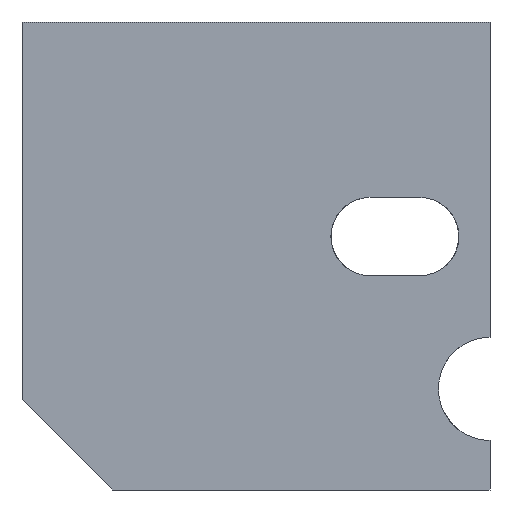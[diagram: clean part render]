
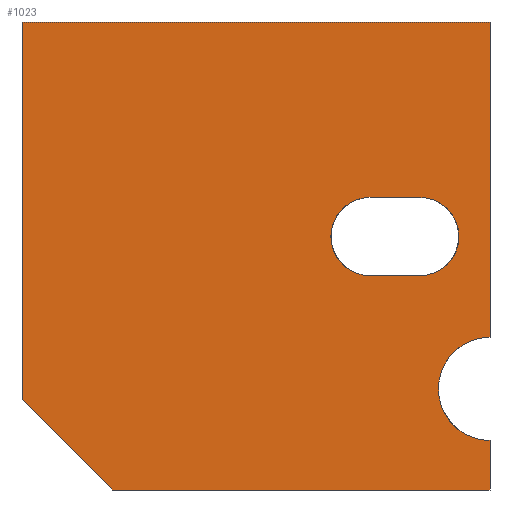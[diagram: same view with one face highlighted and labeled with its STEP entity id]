
A CAD part, left-side view. The second image highlights one B-rep face of the part: STEP entity #1023.
In plain terms, the highlighted planar face has unit normal (-1, 0, 0).
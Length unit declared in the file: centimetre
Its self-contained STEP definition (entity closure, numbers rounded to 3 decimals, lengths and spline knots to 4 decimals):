
#20 = EDGE_CURVE ( 'NONE', #1000, #67, #462, .T. ) ;
#21 = DIRECTION ( 'NONE',  ( 0., 0., -1. ) ) ;
#67 = VERTEX_POINT ( 'NONE', #134 ) ;
#73 = DIRECTION ( 'NONE',  ( 0., -0.707, -0.707 ) ) ;
#89 = EDGE_CURVE ( 'NONE', #1279, #789, #889, .T. ) ;
#91 = CIRCLE ( 'NONE', #526, 83.6708 ) ;
#96 = VERTEX_POINT ( 'NONE', #1152 ) ;
#134 = CARTESIAN_POINT ( 'NONE',  ( 0., 1000., 193.5692 ) ) ;
#147 = ORIENTED_EDGE ( 'NONE', *, *, #441, .T. ) ;
#185 = LINE ( 'NONE', #1584, #856 ) ;
#189 = CARTESIAN_POINT ( 'NONE',  ( 0., 256.3661, 625.1656 ) ) ;
#200 = AXIS2_PLACEMENT_3D ( 'NONE', #920, #782, #897 ) ;
#219 = CARTESIAN_POINT ( 'NONE',  ( 0., 1000., 0. ) ) ;
#234 = VERTEX_POINT ( 'NONE', #966 ) ;
#253 = CARTESIAN_POINT ( 'NONE',  ( 0., 256.3661, 541.4948 ) ) ;
#281 = ORIENTED_EDGE ( 'NONE', *, *, #1292, .F. ) ;
#291 = CARTESIAN_POINT ( 'NONE',  ( 0., 150.1251, 457.8241 ) ) ;
#321 = ORIENTED_EDGE ( 'NONE', *, *, #512, .T. ) ;
#364 = ORIENTED_EDGE ( 'NONE', *, *, #392, .T. ) ;
#382 = VERTEX_POINT ( 'NONE', #991 ) ;
#385 = VECTOR ( 'NONE', #454, 100. ) ;
#392 = EDGE_CURVE ( 'NONE', #854, #730, #1390, .T. ) ;
#441 = EDGE_CURVE ( 'NONE', #96, #849, #1383, .T. ) ;
#454 = DIRECTION ( 'NONE',  ( 0., 0., -1. ) ) ;
#462 = LINE ( 'NONE', #1246, #609 ) ;
#476 = ORIENTED_EDGE ( 'NONE', *, *, #655, .T. ) ;
#486 = CARTESIAN_POINT ( 'NONE',  ( 0., 0., 0. ) ) ;
#488 = EDGE_CURVE ( 'NONE', #730, #1003, #610, .T. ) ;
#491 = DIRECTION ( 'NONE',  ( 0., 0., -1. ) ) ;
#512 = EDGE_CURVE ( 'NONE', #382, #854, #91, .T. ) ;
#526 = AXIS2_PLACEMENT_3D ( 'NONE', #253, #1156, #21 ) ;
#579 = VECTOR ( 'NONE', #73, 100. ) ;
#609 = VECTOR ( 'NONE', #1291, 100. ) ;
#610 = CIRCLE ( 'NONE', #200, 83.6708 ) ;
#655 = EDGE_CURVE ( 'NONE', #1003, #382, #1182, .T. ) ;
#666 = VECTOR ( 'NONE', #1482, 100. ) ;
#680 = DIRECTION ( 'NONE',  ( 0., -1., 0. ) ) ;
#691 = CARTESIAN_POINT ( 'NONE',  ( 0., 150.1251, 625.1656 ) ) ;
#730 = VERTEX_POINT ( 'NONE', #691 ) ;
#743 = AXIS2_PLACEMENT_3D ( 'NONE', #907, #1308, #1556 ) ;
#761 = EDGE_LOOP ( 'NONE', ( #1250, #1307, #823, #281, #1205, #1115, #147 ) ) ;
#774 = VECTOR ( 'NONE', #1363, 100. ) ;
#782 = DIRECTION ( 'NONE',  ( 1., 0., 0. ) ) ;
#789 = VERTEX_POINT ( 'NONE', #1628 ) ;
#823 = ORIENTED_EDGE ( 'NONE', *, *, #1090, .F. ) ;
#841 = DIRECTION ( 'NONE',  ( 0., 1., 0. ) ) ;
#849 = VERTEX_POINT ( 'NONE', #486 ) ;
#854 = VERTEX_POINT ( 'NONE', #189 ) ;
#856 = VECTOR ( 'NONE', #680, 100. ) ;
#862 = CARTESIAN_POINT ( 'NONE',  ( 0., 256.3661, 625.1656 ) ) ;
#889 = CIRCLE ( 'NONE', #743, 110.3447 ) ;
#897 = DIRECTION ( 'NONE',  ( 0., 0., -1. ) ) ;
#907 = CARTESIAN_POINT ( 'NONE',  ( 0., 0., 216.1021 ) ) ;
#920 = CARTESIAN_POINT ( 'NONE',  ( 0., 150.1251, 541.4948 ) ) ;
#947 = CARTESIAN_POINT ( 'NONE',  ( 0., 0., 326.4468 ) ) ;
#966 = CARTESIAN_POINT ( 'NONE',  ( 0., 0., 1000. ) ) ;
#985 = LINE ( 'NONE', #1263, #385 ) ;
#991 = CARTESIAN_POINT ( 'NONE',  ( 0., 256.3661, 457.8241 ) ) ;
#996 = FACE_OUTER_BOUND ( 'NONE', #761, .T. ) ;
#1000 = VERTEX_POINT ( 'NONE', #1164 ) ;
#1003 = VERTEX_POINT ( 'NONE', #1304 ) ;
#1023 = ADVANCED_FACE ( 'NONE', ( #1635, #996 ), #1386, .F. ) ;
#1090 = EDGE_CURVE ( 'NONE', #234, #1279, #985, .T. ) ;
#1115 = ORIENTED_EDGE ( 'NONE', *, *, #1419, .T. ) ;
#1133 = EDGE_LOOP ( 'NONE', ( #364, #1606, #476, #321 ) ) ;
#1136 = CARTESIAN_POINT ( 'NONE',  ( 0., 1000., 1000. ) ) ;
#1152 = CARTESIAN_POINT ( 'NONE',  ( 0., 806.4308, 0. ) ) ;
#1156 = DIRECTION ( 'NONE',  ( 1., 0., 0. ) ) ;
#1164 = CARTESIAN_POINT ( 'NONE',  ( 0., 1000., 1000. ) ) ;
#1182 = LINE ( 'NONE', #291, #1627 ) ;
#1205 = ORIENTED_EDGE ( 'NONE', *, *, #20, .T. ) ;
#1234 = CARTESIAN_POINT ( 'NONE',  ( 0., 0., 1000. ) ) ;
#1246 = CARTESIAN_POINT ( 'NONE',  ( 0., 1000., 1000. ) ) ;
#1250 = ORIENTED_EDGE ( 'NONE', *, *, #1434, .F. ) ;
#1263 = CARTESIAN_POINT ( 'NONE',  ( 0., 0., 1000. ) ) ;
#1279 = VERTEX_POINT ( 'NONE', #947 ) ;
#1291 = DIRECTION ( 'NONE',  ( 0., 0., -1. ) ) ;
#1292 = EDGE_CURVE ( 'NONE', #1000, #234, #185, .T. ) ;
#1304 = CARTESIAN_POINT ( 'NONE',  ( 0., 150.1251, 457.8241 ) ) ;
#1307 = ORIENTED_EDGE ( 'NONE', *, *, #89, .F. ) ;
#1308 = DIRECTION ( 'NONE',  ( -1., 0., 0. ) ) ;
#1363 = DIRECTION ( 'NONE',  ( 0., -1., 0. ) ) ;
#1383 = LINE ( 'NONE', #219, #666 ) ;
#1386 = PLANE ( 'NONE',  #1443 ) ;
#1390 = LINE ( 'NONE', #862, #774 ) ;
#1394 = LINE ( 'NONE', #1512, #579 ) ;
#1419 = EDGE_CURVE ( 'NONE', #67, #96, #1394, .T. ) ;
#1434 = EDGE_CURVE ( 'NONE', #789, #849, #1484, .T. ) ;
#1443 = AXIS2_PLACEMENT_3D ( 'NONE', #1136, #1625, #1497 ) ;
#1482 = DIRECTION ( 'NONE',  ( 0., -1., 0. ) ) ;
#1484 = LINE ( 'NONE', #1234, #1489 ) ;
#1489 = VECTOR ( 'NONE', #491, 100. ) ;
#1497 = DIRECTION ( 'NONE',  ( 0., 0., -1. ) ) ;
#1512 = CARTESIAN_POINT ( 'NONE',  ( 0., 1000., 193.5692 ) ) ;
#1556 = DIRECTION ( 'NONE',  ( 0., 0., 1. ) ) ;
#1584 = CARTESIAN_POINT ( 'NONE',  ( 0., 1000., 1000. ) ) ;
#1606 = ORIENTED_EDGE ( 'NONE', *, *, #488, .T. ) ;
#1625 = DIRECTION ( 'NONE',  ( 1., 0., 0. ) ) ;
#1627 = VECTOR ( 'NONE', #841, 100. ) ;
#1628 = CARTESIAN_POINT ( 'NONE',  ( 0., 0., 105.7575 ) ) ;
#1635 = FACE_BOUND ( 'NONE', #1133, .T. ) ;
